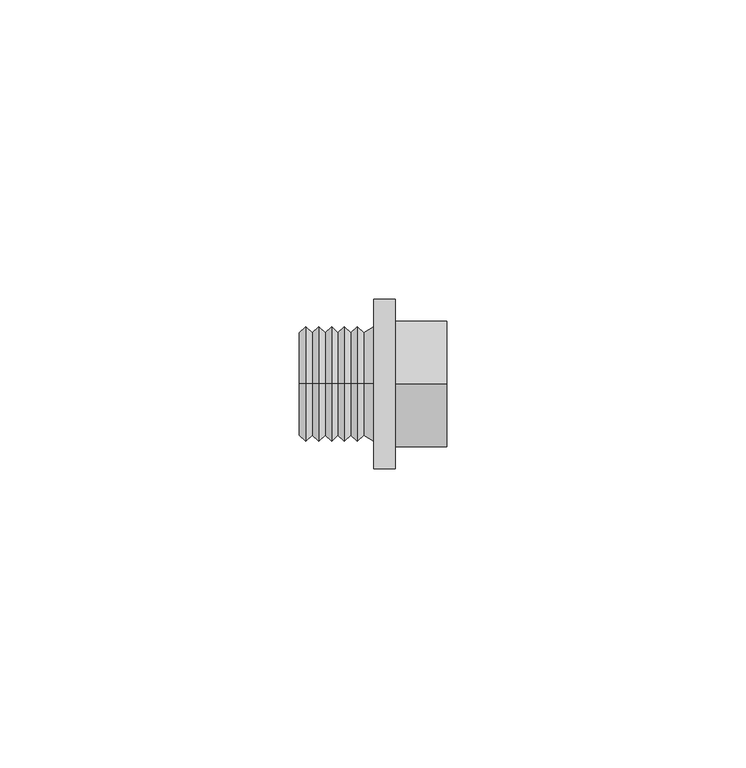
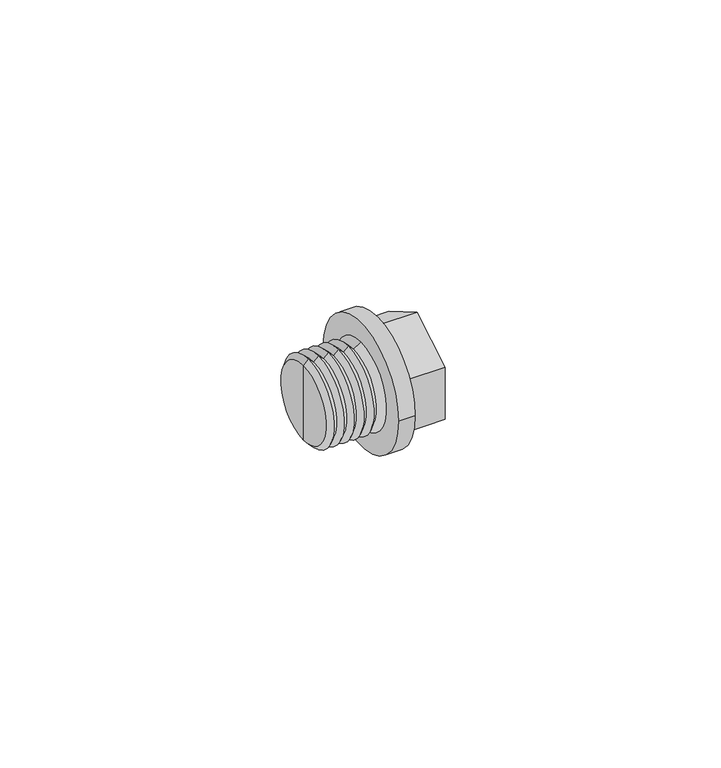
"""IFC4 building model written with IfcOpenShell, lengths in millimetres: pipe fitting geometry, EGB_VASEN_ PPR_Tapon roscado WXR701 : Tapón roscado WXR701."""

from ifc_helpers import new_model, si_unit, point, frame, origin, origin_2d, place, context, project, spatial, polyline, circle_curve, trimmed, segment, composite_curve, outline, extrude, source, transform, mapped, element, save
from ifc_brep_helpers import plane_surface, revolved_surface, advanced_brep


def pipe_fitting_8166a9dc(model_context):
    return source(origin(), model_context, "Body", "SolidModel", [
        advanced_brep(
        [(-11.323, 0.0, -9.5939161), (-11.323, 0.0, 9.5939161), (-12.4, 0.0, 8.5847628), (-12.4, 0.0, -8.5847628), (-10.246, 0.0, -8.5847628), (-10.246, 0.0, 8.5847628), (-9.169, 0.0, -9.5939161), (-9.169, 0.0, 9.5939161), (-8.092, 0.0, -8.5847628), (-8.092, 0.0, 8.5847628), (-7.015, 0.0, -9.5939161), (-7.015, 0.0, 9.5939161), (-5.938, 0.0, -8.5847628), (-5.938, 0.0, 8.5847628), (-4.861, 0.0, -9.5939161), (-4.861, 0.0, 9.5939161), (-3.784, 0.0, -8.5847628), (-3.784, 0.0, 8.5847628), (-2.707, 0.0, -9.5939161), (-2.707, 0.0, 9.5939161), (-1.63, 0.0, -8.5847628), (-1.63, 0.0, 8.5847628), (0.0, 0.0, -9.5939161), (0.0, 0.0, 9.5939161), (0.0, 0.0, 0.0), (-12.3999988, 0.0, 0.0)],
        [
            (0, 1, circle_curve(frame((-11.323, 0.0, 0.0), z_axis=(-1.0, 0.0, 0.0), x_axis=(0.0, 0.0, 1.0)), 9.5939161)),
            (1, 2),
            (2, 3, circle_curve(frame((-12.4, 0.0, 0.0), z_axis=(1.0, 0.0, 0.0), x_axis=(0.0, 0.0, 1.0)), 8.5847628)),
            (3, 0),
            (1, 0, circle_curve(frame((-11.323, 0.0, 0.0), z_axis=(-1.0, 0.0, 0.0), x_axis=(0.0, 0.0, 1.0)), 9.5939161)),
            (3, 2, circle_curve(frame((-12.4, 0.0, 0.0), z_axis=(1.0, 0.0, 0.0), x_axis=(0.0, 0.0, 1.0)), 8.5847628)),
            (4, 5, circle_curve(frame((-10.246, 0.0, 0.0), z_axis=(-1.0, 0.0, 0.0), x_axis=(0.0, 0.0, 1.0)), 8.5847628)),
            (5, 1),
            (0, 4),
            (5, 4, circle_curve(frame((-10.246, 0.0, 0.0), z_axis=(-1.0, 0.0, 0.0), x_axis=(0.0, 0.0, 1.0)), 8.5847628)),
            (6, 7, circle_curve(frame((-9.169, 0.0, 0.0), z_axis=(-1.0, 0.0, 0.0), x_axis=(0.0, 0.0, 1.0)), 9.5939161)),
            (7, 5),
            (4, 6),
            (7, 6, circle_curve(frame((-9.169, 0.0, 0.0), z_axis=(-1.0, 0.0, 0.0), x_axis=(0.0, 0.0, 1.0)), 9.5939161)),
            (8, 9, circle_curve(frame((-8.092, 0.0, 0.0), z_axis=(-1.0, 0.0, 0.0), x_axis=(0.0, 0.0, 1.0)), 8.5847628)),
            (9, 7),
            (6, 8),
            (9, 8, circle_curve(frame((-8.092, 0.0, 0.0), z_axis=(-1.0, 0.0, 0.0), x_axis=(0.0, 0.0, 1.0)), 8.5847628)),
            (10, 11, circle_curve(frame((-7.015, 0.0, 0.0), z_axis=(-1.0, 0.0, 0.0), x_axis=(0.0, 0.0, 1.0)), 9.5939161)),
            (11, 9),
            (8, 10),
            (11, 10, circle_curve(frame((-7.015, 0.0, 0.0), z_axis=(-1.0, 0.0, 0.0), x_axis=(0.0, 0.0, 1.0)), 9.5939161)),
            (12, 13, circle_curve(frame((-5.938, 0.0, 0.0), z_axis=(-1.0, 0.0, 0.0), x_axis=(0.0, 0.0, 1.0)), 8.5847628)),
            (13, 11),
            (10, 12),
            (13, 12, circle_curve(frame((-5.938, 0.0, 0.0), z_axis=(-1.0, 0.0, 0.0), x_axis=(0.0, 0.0, 1.0)), 8.5847628)),
            (14, 15, circle_curve(frame((-4.861, 0.0, 0.0), z_axis=(-1.0, 0.0, 0.0), x_axis=(0.0, 0.0, 1.0)), 9.5939161)),
            (15, 13),
            (12, 14),
            (15, 14, circle_curve(frame((-4.861, 0.0, 0.0), z_axis=(-1.0, 0.0, 0.0), x_axis=(0.0, 0.0, 1.0)), 9.5939161)),
            (16, 17, circle_curve(frame((-3.784, 0.0, 0.0), z_axis=(-1.0, 0.0, 0.0), x_axis=(0.0, 0.0, 1.0)), 8.5847628)),
            (17, 15),
            (14, 16),
            (17, 16, circle_curve(frame((-3.784, 0.0, 0.0), z_axis=(-1.0, 0.0, 0.0), x_axis=(0.0, 0.0, 1.0)), 8.5847628)),
            (18, 19, circle_curve(frame((-2.707, 0.0, 0.0), z_axis=(-1.0, 0.0, 0.0), x_axis=(0.0, 0.0, 1.0)), 9.5939161)),
            (19, 17),
            (16, 18),
            (19, 18, circle_curve(frame((-2.707, 0.0, 0.0), z_axis=(-1.0, 0.0, 0.0), x_axis=(0.0, 0.0, 1.0)), 9.5939161)),
            (20, 21, circle_curve(frame((-1.63, 0.0, 0.0), z_axis=(-1.0, 0.0, 0.0), x_axis=(0.0, 0.0, 1.0)), 8.5847628)),
            (21, 19),
            (18, 20),
            (21, 20, circle_curve(frame((-1.63, 0.0, 0.0), z_axis=(-1.0, 0.0, 0.0), x_axis=(0.0, 0.0, 1.0)), 8.5847628)),
            (22, 23, circle_curve(frame((0.0, 0.0, 0.0), z_axis=(-1.0, 0.0, 0.0), x_axis=(0.0, 0.0, 1.0)), 9.5939161)),
            (23, 21),
            (20, 22),
            (23, 22, circle_curve(frame((0.0, 0.0, 0.0), z_axis=(-1.0, 0.0, 0.0), x_axis=(0.0, 0.0, 1.0)), 9.5939161)),
            (24, 23),
            (22, 24),
            (2, 25),
            (25, 3),
        ],
        [
            revolved_surface(polyline([(-12.4, 0.0, 8.5847628), (-11.323, 0.0, 9.5939161)]), (-2044.720081, 0.0, 0.0), (1.0, 0.0, 0.0)),
            revolved_surface(polyline([(-11.323, 0.0, 9.5939161), (-10.246, 0.0, 8.5847628)]), (-2044.720081, 0.0, 0.0), (1.0, 0.0, 0.0)),
            revolved_surface(polyline([(-10.246, 0.0, 8.5847628), (-9.169, 0.0, 9.5939161)]), (-2044.720081, 0.0, 0.0), (1.0, 0.0, 0.0)),
            revolved_surface(polyline([(-9.169, 0.0, 9.5939161), (-8.092, 0.0, 8.5847628)]), (-2044.720081, 0.0, 0.0), (1.0, 0.0, 0.0)),
            revolved_surface(polyline([(-8.092, 0.0, 8.5847628), (-7.015, 0.0, 9.5939161)]), (-2044.720081, 0.0, 0.0), (1.0, 0.0, 0.0)),
            revolved_surface(polyline([(-7.015, 0.0, 9.5939161), (-5.938, 0.0, 8.5847628)]), (-2044.720081, 0.0, 0.0), (1.0, 0.0, 0.0)),
            revolved_surface(polyline([(-5.938, 0.0, 8.5847628), (-4.861, 0.0, 9.5939161)]), (-2044.720081, 0.0, 0.0), (1.0, 0.0, 0.0)),
            revolved_surface(polyline([(-4.861, 0.0, 9.5939161), (-3.784, 0.0, 8.5847628)]), (-2044.720081, 0.0, 0.0), (1.0, 0.0, 0.0)),
            revolved_surface(polyline([(-3.784, 0.0, 8.5847628), (-2.707, 0.0, 9.5939161)]), (-2044.720081, 0.0, 0.0), (1.0, 0.0, 0.0)),
            revolved_surface(polyline([(-2.707, 0.0, 9.5939161), (-1.63, 0.0, 8.5847628)]), (-2044.720081, 0.0, 0.0), (1.0, 0.0, 0.0)),
            revolved_surface(polyline([(-1.63, 0.0, 8.5847628), (0.0, 0.0, 9.5939161)]), (-2044.720081, 0.0, 0.0), (1.0, 0.0, 0.0)),
            plane_surface(frame((0.0, 0.0, 0.0), z_axis=(1.0, 0.0, 0.0), x_axis=(0.0, 0.0, 1.0))),
            plane_surface(frame((-12.3999988, 0.0, 0.0), z_axis=(-1.0, 0.0, 0.0), x_axis=(0.0, 0.0, 1.0))),
        ],
        [
            (0, [[1, 2, 3, 4]]),
            (0, [[5, -4, 6, -2]]),
            (1, [[7, 8, -1, 9]]),
            (1, [[10, -9, -5, -8]]),
            (2, [[11, 12, -7, 13]]),
            (2, [[14, -13, -10, -12]]),
            (3, [[15, 16, -11, 17]]),
            (3, [[18, -17, -14, -16]]),
            (4, [[19, 20, -15, 21]]),
            (4, [[22, -21, -18, -20]]),
            (5, [[23, 24, -19, 25]]),
            (5, [[26, -25, -22, -24]]),
            (6, [[27, 28, -23, 29]]),
            (6, [[30, -29, -26, -28]]),
            (7, [[31, 32, -27, 33]]),
            (7, [[34, -33, -30, -32]]),
            (8, [[35, 36, -31, 37]]),
            (8, [[38, -37, -34, -36]]),
            (9, [[39, 40, -35, 41]]),
            (9, [[42, -41, -38, -40]]),
            (10, [[43, 44, -39, 45]]),
            (10, [[46, -45, -42, -44]]),
            (11, [[47, -43, 48]]),
            (11, [[-48, -46, -47]]),
            (12, [[-3, 49, 50]]),
            (12, [[-6, -50, -49]]),
        ],
    ),
        extrude(outline(polyline([(10.5226174, 6.0), (10.5226174, -6.0), (0.0, -12.2), (-10.5226174, -6.0), (-10.5226174, 6.0), (0.0, 12.2), (10.5226174, 6.0)])), frame((3.5999988, 0.0, 0.0), z_axis=(1.0, 0.0, 0.0), x_axis=(0.0, 1.0, 0.0)), (0.0, 0.0, 1.0), 8.6000012),
        extrude(outline(composite_curve([segment(trimmed(circle_curve(origin_2d(), 14.15), [point((-14.15, 0.0))], [point((14.15, 0.0))], False, "CARTESIAN"), True, "CONTINUOUS"), segment(trimmed(circle_curve(origin_2d(), 14.15), [point((14.15, 0.0))], [point((-14.15, 0.0))], False, "CARTESIAN"), True, "CONTINUOUS")], self_intersect=False)), frame((0.0, 0.0, 0.0), z_axis=(1.0, 0.0, 0.0), x_axis=(0.0, 1.0, 0.0)), (0.0, 0.0, 1.0), 3.5999988),
    ])


if __name__ == "__main__":
    model = new_model("IFC4")
    model_context = context("Model", 3, world=origin())
    ifc_project = project(units=[si_unit("LENGTHUNIT", "METRE", prefix="MILLI")], contexts=[model_context])
    site = spatial("IfcSite", under=ifc_project)
    building = spatial("IfcBuilding", under=site)
    placement = place(None, origin())
    pipe_fitting_shape = pipe_fitting_8166a9dc(model_context)
    element("IfcPipeFitting", 1, ObjectType="EGB_VASEN_ PPR_Tapon roscado WXR701 : Tapón roscado WXR701", at=placement, inside=building, context=model_context, shape_type="MappedRepresentation", body=[
        mapped(pipe_fitting_shape, transform((0.0, 0.0, 0.0), x_axis=(1.0, 0.0, 0.0), y_axis=(0.0, 1.0, 0.0), z_axis=(0.0, 0.0, 1.0))),
    ])
    save(model, "model.ifc")
